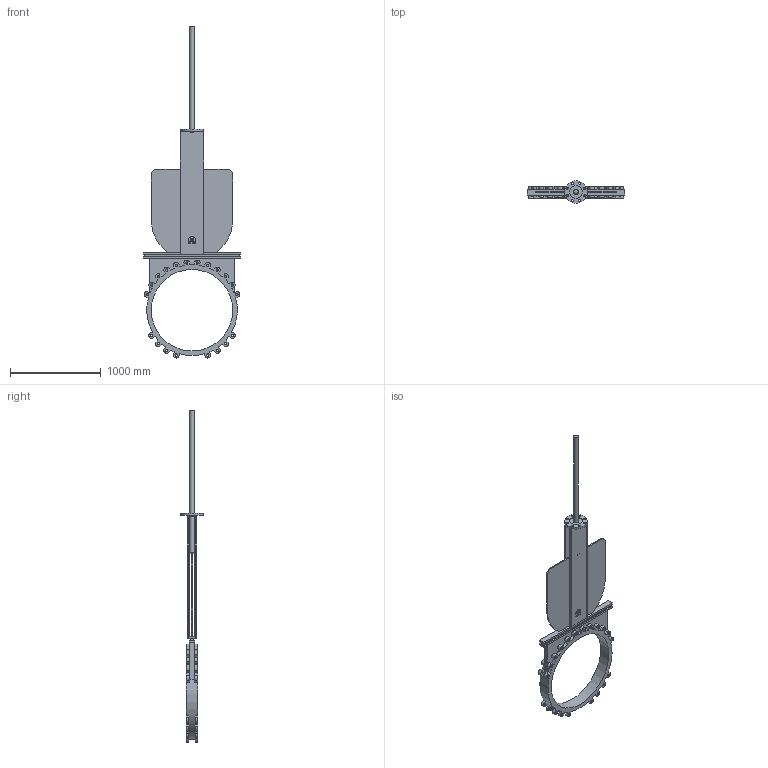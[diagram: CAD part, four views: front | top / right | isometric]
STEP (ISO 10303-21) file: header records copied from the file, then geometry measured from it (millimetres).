
FILE_DESCRIPTION(('STEP AP203'), '1');
FILE_NAME('K21GVA_DN900', '', ('UNSPECIFIED'), ('UNSPECIFIED'), 'ASCON STEP Converter 1.6', 'ASCON Math Kernel', '');
FILE_SCHEMA(('CONFIG_CONTROL_DESIGN'));
Length unit declared in the file: millimetre
Bounding box: 1075 x 250 x 3667.95 mm (x, y, z)
Volume: 50594123.6 mm3; surface area: 5689557 mm2
Topology: 1 solids, 1 shells, 408 faces, 1165 edges, 767 vertices
Faces by surface type: plane 199, cylinder 184, cone 25
Full cylindrical faces by diameter (mm): 18 x8, 26.211 x40, 52 x2, 80 x1, 140 x1, 250 x1, 900 x1, 1001 x1
Entity records: 16236 total; most frequent: DIRECTION 2342, CARTESIAN_POINT 2213, ORIENTED_EDGE 2122, EDGE_CURVE 1061, AXIS2_PLACEMENT_3D 872, VERTEX_POINT 743, LINE 598, VECTOR 598
